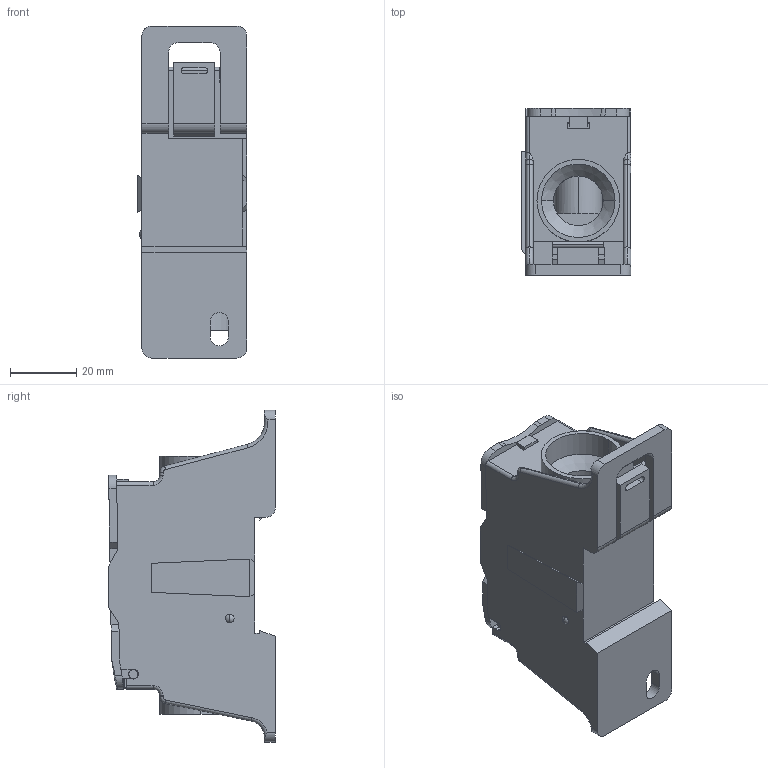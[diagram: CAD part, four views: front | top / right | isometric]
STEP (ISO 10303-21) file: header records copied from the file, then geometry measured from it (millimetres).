
FILE_DESCRIPTION (( 'STEP AP203' ), '1' );
FILE_NAME ('BDA250-1.STEP', '2018-08-10T19:59:17', ( '' ), ( '' ), 'SwSTEP 2.0', 'SolidWorks 2012', '' );
FILE_SCHEMA (( 'CONFIG_CONTROL_DESIGN' ));
Length unit declared in the file: millimetre
Products named in the file (1): BDA250-1
Bounding box: 33.1 x 50.43 x 100.4 mm (x, y, z)
Volume: 73020.1 mm3; surface area: 29968.2 mm2
Topology: 1 solids, 1 shells, 318 faces, 885 edges, 568 vertices
Faces by surface type: plane 175, cylinder 101, torus 30, cone 6, bspline 4, sphere 2
Entity records: 10857 total; most frequent: CARTESIAN_POINT 2579, ORIENTED_EDGE 1770, DIRECTION 1671, EDGE_CURVE 885, VERTEX_POINT 568, VECTOR 565, LINE 565, AXIS2_PLACEMENT_3D 553
